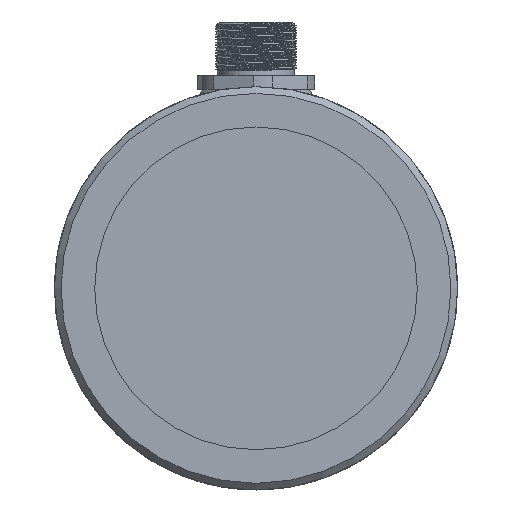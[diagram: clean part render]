
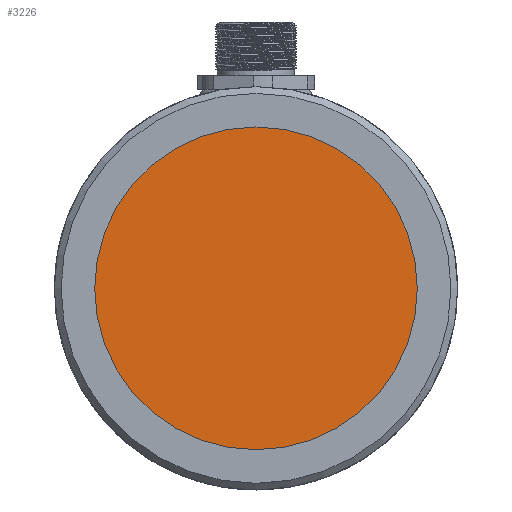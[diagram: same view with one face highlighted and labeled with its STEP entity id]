
A CAD part, left-side view. The second image highlights one B-rep face of the part: STEP entity #3226.
In plain terms, the highlighted planar face has unit normal (-1, 0, 0).
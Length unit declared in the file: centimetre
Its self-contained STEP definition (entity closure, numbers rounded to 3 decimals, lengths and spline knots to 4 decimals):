
#1149=VERTEX_POINT('',#4218);
#1396=CIRCLE('',#3433,2.4);
#1505=EDGE_CURVE('',#1149,#1149,#1396,.T.);
#1936=ORIENTED_EDGE('',*,*,#1505,.T.);
#2750=EDGE_LOOP('',(#1936));
#2990=FACE_BOUND('',#2750,.T.);
#3226=ADVANCED_FACE('',(#2990),#18674,.T.);
#3433=AXIS2_PLACEMENT_3D('',#4217,#3680,#3681);
#3435=AXIS2_PLACEMENT_3D('',#4221,#3684,$);
#3680=DIRECTION('',(-1.,0.,0.));
#3681=DIRECTION('',(0.,0.,2.4));
#3684=DIRECTION('',(-1.,0.,0.));
#4217=CARTESIAN_POINT('',(0.1,0.,0.));
#4218=CARTESIAN_POINT('',(0.1,0.,2.4));
#4221=CARTESIAN_POINT('',(0.1,0.,0.));
#18674=PLANE('',#3435);
